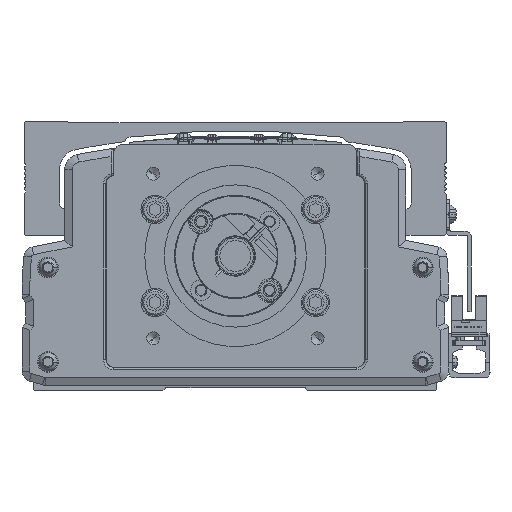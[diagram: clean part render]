
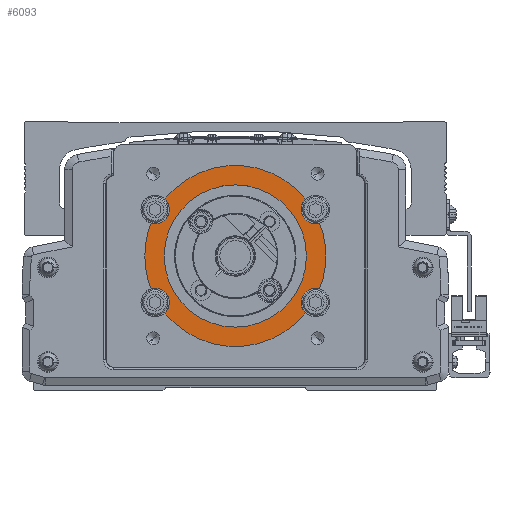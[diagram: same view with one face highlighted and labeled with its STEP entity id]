
A CAD part, front view. The second image highlights one B-rep face of the part: STEP entity #6093.
In plain terms, the highlighted planar face has unit normal (0, -1, 0).
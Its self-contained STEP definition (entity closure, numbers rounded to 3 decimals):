
#6093=ADVANCED_FACE('',(#14654,#14655),#14656,.F.);
#14654=FACE_OUTER_BOUND('',#27040,.T.);
#14655=FACE_BOUND('',#27041,.T.);
#14656=PLANE('',#27042);
#27040=EDGE_LOOP('',(#45954,#45955,#45956,#45957,#45958,#45959,#45960,#45961,#45962,#45963,#45964,#45965,#45966,#45967));
#27041=EDGE_LOOP('',(#45968,#45969));
#27042=AXIS2_PLACEMENT_3D('',#45970,#45971,#45972);
#45954=ORIENTED_EDGE('',*,*,#75978,.F.);
#45955=ORIENTED_EDGE('',*,*,#75979,.T.);
#45956=ORIENTED_EDGE('',*,*,#75980,.T.);
#45957=ORIENTED_EDGE('',*,*,#75981,.F.);
#45958=ORIENTED_EDGE('',*,*,#75982,.F.);
#45959=ORIENTED_EDGE('',*,*,#75053,.T.);
#45960=ORIENTED_EDGE('',*,*,#72169,.F.);
#45961=ORIENTED_EDGE('',*,*,#75983,.F.);
#45962=ORIENTED_EDGE('',*,*,#71389,.T.);
#45963=ORIENTED_EDGE('',*,*,#72207,.T.);
#45964=ORIENTED_EDGE('',*,*,#75984,.F.);
#45965=ORIENTED_EDGE('',*,*,#75985,.F.);
#45966=ORIENTED_EDGE('',*,*,#75986,.T.);
#45967=ORIENTED_EDGE('',*,*,#72037,.F.);
#45968=ORIENTED_EDGE('',*,*,#72814,.F.);
#45969=ORIENTED_EDGE('',*,*,#75987,.F.);
#45970=CARTESIAN_POINT('',(-600.,-246.778,0.));
#45971=DIRECTION('',(0.,1.0,0.));
#45972=DIRECTION('',(-1.0,0.,0.));
#71389=EDGE_CURVE('',#84620,#84618,#84621,.T.);
#72037=EDGE_CURVE('',#85797,#85799,#85800,.T.);
#72169=EDGE_CURVE('',#86033,#86035,#86036,.T.);
#72207=EDGE_CURVE('',#84618,#86099,#86101,.T.);
#72814=EDGE_CURVE('',#87184,#87180,#87186,.T.);
#75053=EDGE_CURVE('',#91017,#86035,#91020,.T.);
#75978=EDGE_CURVE('',#92531,#85797,#92532,.T.);
#75979=EDGE_CURVE('',#92531,#92533,#92534,.T.);
#75980=EDGE_CURVE('',#92533,#92535,#92536,.T.);
#75981=EDGE_CURVE('',#92537,#92535,#92538,.T.);
#75982=EDGE_CURVE('',#91017,#92537,#92539,.T.);
#75983=EDGE_CURVE('',#84620,#86033,#92540,.T.);
#75984=EDGE_CURVE('',#92541,#86099,#92542,.T.);
#75985=EDGE_CURVE('',#92543,#92541,#92544,.T.);
#75986=EDGE_CURVE('',#92543,#85799,#92545,.T.);
#75987=EDGE_CURVE('',#87180,#87184,#92546,.T.);
#84618=VERTEX_POINT('',#104030);
#84620=VERTEX_POINT('',#104033);
#84621=CIRCLE('',#104034,35.0);
#85797=VERTEX_POINT('',#105597);
#85799=VERTEX_POINT('',#105600);
#85800=CIRCLE('',#105601,5.5);
#86033=VERTEX_POINT('',#105906);
#86035=VERTEX_POINT('',#105909);
#86036=CIRCLE('',#105910,5.5);
#86099=VERTEX_POINT('',#105986);
#86101=CIRCLE('',#105989,35.0);
#87180=VERTEX_POINT('',#107759);
#87184=VERTEX_POINT('',#107764);
#87186=CIRCLE('',#107767,27.5);
#91017=VERTEX_POINT('',#113211);
#91020=CIRCLE('',#113215,35.0);
#92531=VERTEX_POINT('',#115324);
#92532=CIRCLE('',#115325,5.5);
#92533=VERTEX_POINT('',#115326);
#92534=CIRCLE('',#115327,35.0);
#92535=VERTEX_POINT('',#115328);
#92536=CIRCLE('',#115329,35.0);
#92537=VERTEX_POINT('',#115330);
#92538=CIRCLE('',#115331,5.5);
#92539=CIRCLE('',#115332,5.5);
#92540=CIRCLE('',#115333,5.5);
#92541=VERTEX_POINT('',#115334);
#92542=CIRCLE('',#115335,5.5);
#92543=VERTEX_POINT('',#115336);
#92544=CIRCLE('',#115337,5.5);
#92545=CIRCLE('',#115338,35.0);
#92546=CIRCLE('',#115339,27.5);
#104030=CARTESIAN_POINT('',(-565.,-246.778,0.));
#104033=CARTESIAN_POINT('',(-567.4,-246.778,-12.738));
#104034=AXIS2_PLACEMENT_3D('',#131457,#131458,#131459);
#105597=CARTESIAN_POINT('',(-625.5,-246.778,18.));
#105600=CARTESIAN_POINT('',(-627.223,-246.778,21.998));
#105601=AXIS2_PLACEMENT_3D('',#132511,#132512,#132513);
#105906=CARTESIAN_POINT('',(-574.5,-246.778,-18.));
#105909=CARTESIAN_POINT('',(-572.777,-246.778,-21.998));
#105910=AXIS2_PLACEMENT_3D('',#132689,#132690,#132691);
#105986=CARTESIAN_POINT('',(-567.4,-246.778,12.738));
#105989=AXIS2_PLACEMENT_3D('',#132754,#132755,#132756);
#107759=CARTESIAN_POINT('',(-627.5,-246.778,0.));
#107764=CARTESIAN_POINT('',(-572.5,-246.778,0.));
#107767=AXIS2_PLACEMENT_3D('',#133561,#133562,#133563);
#113211=CARTESIAN_POINT('',(-627.223,-246.778,-21.998));
#113215=AXIS2_PLACEMENT_3D('',#136875,#136876,#136877);
#115324=CARTESIAN_POINT('',(-632.6,-246.778,12.738));
#115325=AXIS2_PLACEMENT_3D('',#138251,#138252,#138253);
#115326=CARTESIAN_POINT('',(-635.,-246.778,0.));
#115327=AXIS2_PLACEMENT_3D('',#138254,#138255,#138256);
#115328=CARTESIAN_POINT('',(-632.6,-246.778,-12.738));
#115329=AXIS2_PLACEMENT_3D('',#138257,#138258,#138259);
#115330=CARTESIAN_POINT('',(-625.5,-246.778,-18.));
#115331=AXIS2_PLACEMENT_3D('',#138260,#138261,#138262);
#115332=AXIS2_PLACEMENT_3D('',#138263,#138264,#138265);
#115333=AXIS2_PLACEMENT_3D('',#138266,#138267,#138268);
#115334=CARTESIAN_POINT('',(-574.5,-246.778,18.));
#115335=AXIS2_PLACEMENT_3D('',#138269,#138270,#138271);
#115336=CARTESIAN_POINT('',(-572.777,-246.778,21.998));
#115337=AXIS2_PLACEMENT_3D('',#138272,#138273,#138274);
#115338=AXIS2_PLACEMENT_3D('',#138275,#138276,#138277);
#115339=AXIS2_PLACEMENT_3D('',#138278,#138279,#138280);
#131457=CARTESIAN_POINT('',(-600.,-246.778,0.));
#131458=DIRECTION('',(0.,-1.0,0.));
#131459=DIRECTION('',(-1.0,0.,0.));
#132511=CARTESIAN_POINT('',(-631.,-246.778,18.));
#132512=DIRECTION('',(0.,-1.0,0.));
#132513=DIRECTION('',(-1.0,0.,0.));
#132689=CARTESIAN_POINT('',(-569.,-246.778,-18.));
#132690=DIRECTION('',(0.,-1.0,0.));
#132691=DIRECTION('',(1.0,0.,0.));
#132754=CARTESIAN_POINT('',(-600.,-246.778,0.));
#132755=DIRECTION('',(0.,-1.0,0.));
#132756=DIRECTION('',(-1.0,0.,0.));
#133561=CARTESIAN_POINT('',(-600.,-246.778,0.));
#133562=DIRECTION('',(0.,-1.0,0.));
#133563=DIRECTION('',(-1.0,0.,0.));
#136875=CARTESIAN_POINT('',(-600.,-246.778,0.));
#136876=DIRECTION('',(0.,-1.0,0.));
#136877=DIRECTION('',(-1.0,0.,0.));
#138251=CARTESIAN_POINT('',(-631.,-246.778,18.));
#138252=DIRECTION('',(0.,-1.0,0.));
#138253=DIRECTION('',(-1.0,0.,0.));
#138254=CARTESIAN_POINT('',(-600.,-246.778,0.));
#138255=DIRECTION('',(0.,-1.0,0.));
#138256=DIRECTION('',(-1.0,0.,0.));
#138257=CARTESIAN_POINT('',(-600.,-246.778,0.));
#138258=DIRECTION('',(0.,-1.0,0.));
#138259=DIRECTION('',(-1.0,0.,0.));
#138260=CARTESIAN_POINT('',(-631.,-246.778,-18.));
#138261=DIRECTION('',(0.,-1.0,0.));
#138262=DIRECTION('',(-1.0,0.,0.));
#138263=CARTESIAN_POINT('',(-631.,-246.778,-18.));
#138264=DIRECTION('',(0.,-1.0,0.));
#138265=DIRECTION('',(-1.0,0.,0.));
#138266=CARTESIAN_POINT('',(-569.,-246.778,-18.));
#138267=DIRECTION('',(0.,-1.0,0.));
#138268=DIRECTION('',(1.0,0.,0.));
#138269=CARTESIAN_POINT('',(-569.,-246.778,18.));
#138270=DIRECTION('',(0.,-1.0,0.));
#138271=DIRECTION('',(1.0,0.,0.));
#138272=CARTESIAN_POINT('',(-569.,-246.778,18.));
#138273=DIRECTION('',(0.,-1.0,0.));
#138274=DIRECTION('',(1.0,0.,0.));
#138275=CARTESIAN_POINT('',(-600.,-246.778,0.));
#138276=DIRECTION('',(0.,-1.0,0.));
#138277=DIRECTION('',(-1.0,0.,0.));
#138278=CARTESIAN_POINT('',(-600.,-246.778,0.));
#138279=DIRECTION('',(0.,-1.0,0.));
#138280=DIRECTION('',(-1.0,0.,0.));
